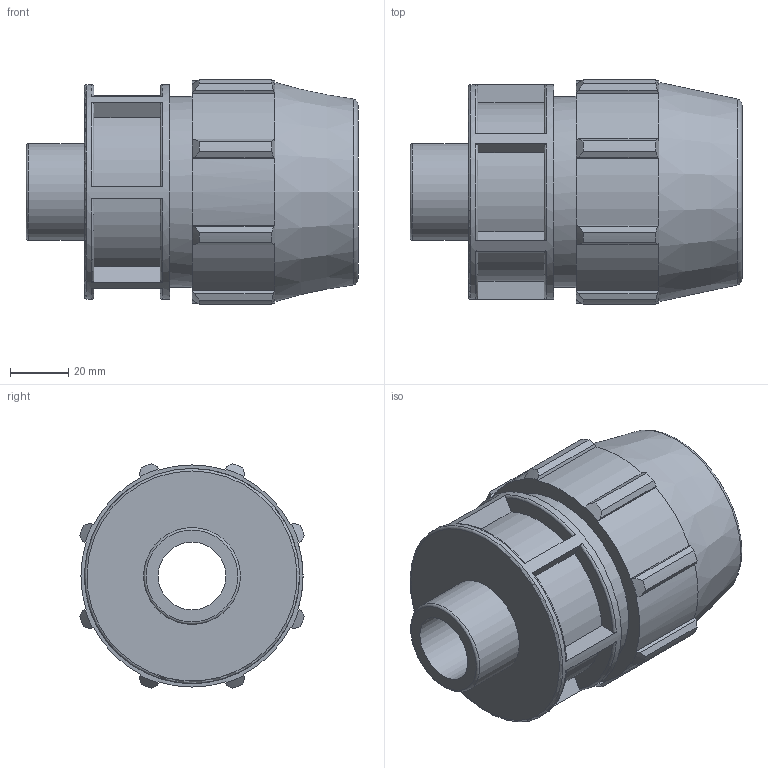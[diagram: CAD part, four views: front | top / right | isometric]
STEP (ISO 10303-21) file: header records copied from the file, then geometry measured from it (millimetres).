
FILE_DESCRIPTION(/* description */ ('PLASSON MALE ADAPTOR 1 1/4'''' - 1''''M'),/* implementation_level */ '2;1');
FILE_NAME(/* name */ 'C:\Dropbox\KIMPROJECTS-Inventor 2019\99-16-3568-Processing Inch\ASTM Compression 2021\0702M0T\0702M0T13010.ipt.stp',/* time_stamp */ '2021-08-26T12:30:15+03:00',/* author */ ('KIM'),/* organization */ (''),/* preprocessor_version */ 'ST-DEVELOPER v17.2',/* originating_system */ 'Autodesk Inventor 2019',/* authorisation */ '');
FILE_SCHEMA (('AUTOMOTIVE_DESIGN { 1 0 10303 214 3 1 1 }'));
Length unit declared in the file: inch
Products named in the file (1): 0702M0T13010
Bounding box: 114.05 x 77.2 x 77.2 mm (x, y, z)
Volume: 245292.2 mm3; surface area: 50449.3 mm2
Topology: 1 solids, 1 shells, 117 faces, 327 edges, 223 vertices
Faces by surface type: plane 63, cylinder 27, torus 15, cone 12
Full cylindrical faces by diameter (mm): 23.274 x1, 33.249 x1, 42.1 x1, 65.634 x1, 73.838 x1
Entity records: 4135 total; most frequent: CARTESIAN_POINT 948, ORIENTED_EDGE 654, DIRECTION 625, EDGE_CURVE 327, AXIS2_PLACEMENT_3D 236, VERTEX_POINT 223, LINE 153, VECTOR 153
